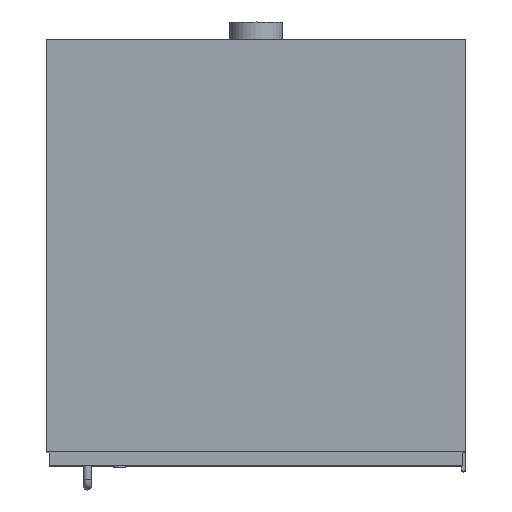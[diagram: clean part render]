
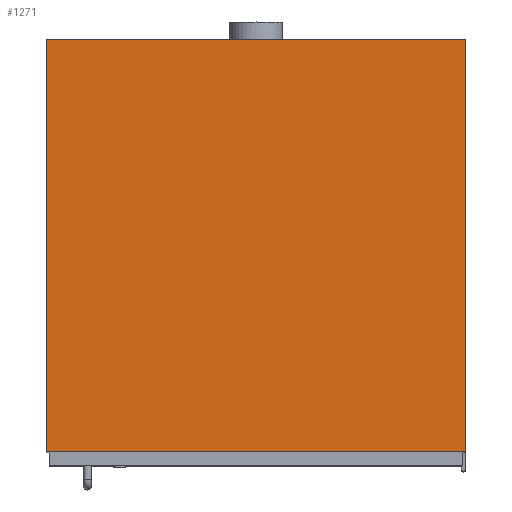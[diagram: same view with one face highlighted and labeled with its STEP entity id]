
A CAD part, top view. The second image highlights one B-rep face of the part: STEP entity #1271.
In plain terms, the highlighted planar face has unit normal (0, 0, 1).
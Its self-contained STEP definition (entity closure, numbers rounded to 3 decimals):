
#52=LINE('',#1727,#132);
#65=LINE('',#1768,#145);
#67=LINE('',#1774,#147);
#72=LINE('',#1783,#152);
#132=VECTOR('',#1453,1000.);
#145=VECTOR('',#1496,1000.);
#147=VECTOR('',#1502,1000.);
#152=VECTOR('',#1509,1000.);
#195=PLANE('',#1342);
#315=ORIENTED_EDGE('',*,*,#474,.F.);
#316=ORIENTED_EDGE('',*,*,#501,.F.);
#317=ORIENTED_EDGE('',*,*,#496,.T.);
#318=ORIENTED_EDGE('',*,*,#493,.T.);
#474=EDGE_CURVE('',#580,#581,#52,.T.);
#493=EDGE_CURVE('',#594,#581,#65,.T.);
#496=EDGE_CURVE('',#596,#594,#67,.T.);
#501=EDGE_CURVE('',#596,#580,#72,.T.);
#580=VERTEX_POINT('',#1726);
#581=VERTEX_POINT('',#1728);
#594=VERTEX_POINT('',#1769);
#596=VERTEX_POINT('',#1775);
#694=EDGE_LOOP('',(#315,#316,#317,#318));
#780=FACE_BOUND('',#694,.T.);
#1271=ADVANCED_FACE('',(#780),#195,.F.);
#1342=AXIS2_PLACEMENT_3D('',#1789,#1513,#1514);
#1453=DIRECTION('',(-1.,0.,0.));
#1496=DIRECTION('',(0.,-1.,0.));
#1502=DIRECTION('',(-1.,0.,0.));
#1509=DIRECTION('',(0.,-1.,0.));
#1513=DIRECTION('',(0.,0.,-1.));
#1514=DIRECTION('',(-1.,0.,0.));
#1726=CARTESIAN_POINT('',(600.,19.,805.));
#1727=CARTESIAN_POINT('',(597.,19.,805.));
#1728=CARTESIAN_POINT('',(0.,19.,805.));
#1768=CARTESIAN_POINT('',(0.,631.,805.));
#1769=CARTESIAN_POINT('',(0.,609.,805.));
#1774=CARTESIAN_POINT('',(597.,609.,805.));
#1775=CARTESIAN_POINT('',(600.,609.,805.));
#1783=CARTESIAN_POINT('',(600.,631.,805.));
#1789=CARTESIAN_POINT('',(597.,631.,805.));
